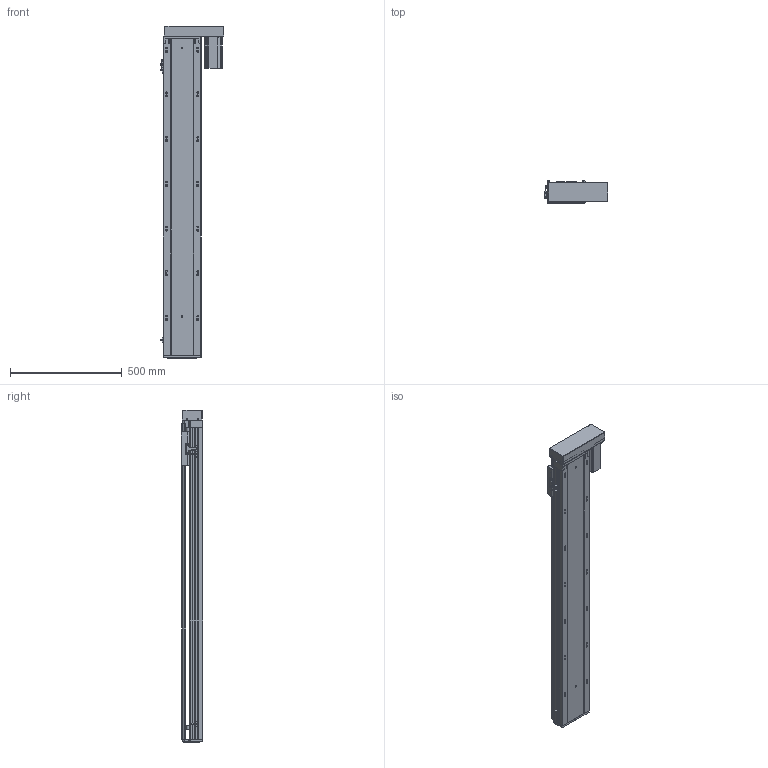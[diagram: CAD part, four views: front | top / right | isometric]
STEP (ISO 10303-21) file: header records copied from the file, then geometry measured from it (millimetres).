
FILE_DESCRIPTION (( 'STEP AP203' ), '1' );
FILE_NAME ('RY170-L2510-1400-RK.SLDASM_1150.step', '2021-03-12T09:37:58', ( '盈信电脑' ), ( '东莞市道滘镇水果街19号' ), 'SwSTEP 2.0', 'SolidWorks 2012', '' );
FILE_SCHEMA (( 'CONFIG_CONTROL_DESIGN' ));
Length unit declared in the file: millimetre
Products named in the file (13): RY170-L2510-1400-RK.SLDASM_1150; 覜茼ん672; RY170外置感应片(200共用）; RY170-左右折电机安装板750W; 怢湛750W萇儂ㄗ80遺ㄘ; RY170-酘衵殏750W萇儂傷; RY170酘衵殏萇儂欶750W; 滅袉蝶18-20; RY170綴裔啣; RY170转折电机端支撑座(7004); RY170-1400倰第裔啣-LK_1150; 改造-RY170铝滑块25丝杆螺母; RY170-1400倰第菁釱-LK_1150
Assembly tree (15 placements, depth 3):
  RY170-L2510-1400-RK.SLDASM_1150
    RY170-1400倰第菁釱-LK_1150
    改造-RY170铝滑块25丝杆螺母
    RY170-1400倰第裔啣-LK_1150
    RY170綴裔啣
    滅袉蝶18-20  x2
    RY170转折电机端支撑座(7004)
    RY170-酘衵殏750W萇儂傷
      RY170-左右折电机安装板750W
      RY170酘衵殏萇儂欶750W
      怢湛750W萇儂ㄗ80遺ㄘ
    覜茼ん672  x3
    RY170外置感应片(200共用）
Bounding box: 286.2 x 97 x 1485 mm (x, y, z)
Volume: 7970540.1 mm3; surface area: 2518333.1 mm2
Topology: 14 solids, 14 shells, 2217 faces, 6330 edges, 4050 vertices
Faces by surface type: plane 1088, cylinder 912, cone 198, bspline 19
Entity records: 70970 total; most frequent: CARTESIAN_POINT 16892, ORIENTED_EDGE 11320, DIRECTION 10546, EDGE_CURVE 5660, VERTEX_POINT 3718, AXIS2_PLACEMENT_3D 3522, VECTOR 3502, LINE 3502
